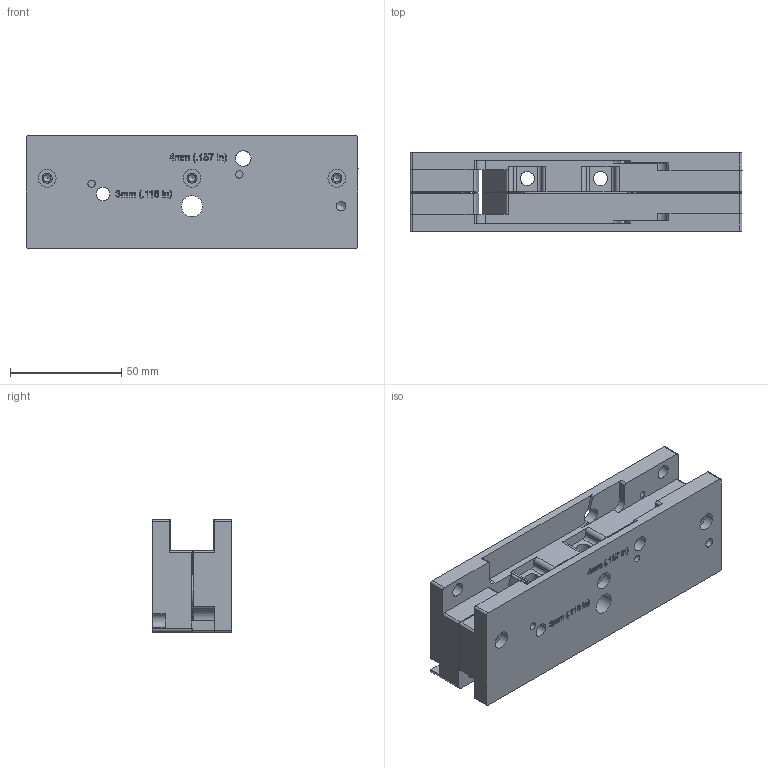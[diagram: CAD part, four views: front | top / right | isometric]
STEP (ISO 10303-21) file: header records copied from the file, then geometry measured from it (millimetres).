
FILE_DESCRIPTION(/* description */ ('','CAx-IF Rec.Pracs.---Representation and Presentation of Product Manufacturing Information (PMI)---4.0---2014-10-13'),/* implementation_level */ '2;1');
FILE_NAME(/* name */ 'G80 Fixture_Rev.C (Anodized).step',/* time_stamp */ '2024-12-09T23:16:25-06:00',/* author */ (''),/* organization */ (''),/* preprocessor_version */ 'ST-DEVELOPER v20',/* originating_system */ 'Autodesk Translation Framework v13.20.0.188',/* authorisation */ '');
FILE_SCHEMA (('AP242_MANAGED_MODEL_BASED_3D_ENGINEERING_MIM_LF { 1 0 10303 442 1 1 4 }'));
Length unit declared in the file: inch
Products named in the file (2): G80 Fixture_Rev.C (Anodized); Component7
Assembly tree (1 placements, depth 2):
  G80 Fixture_Rev.C (Anodized)
    Component7
Bounding box: 149.22 x 35.4 x 50.8 mm (x, y, z)
Volume: 191594.1 mm3; surface area: 51280 mm2
Topology: 2 solids, 2 shells, 940 faces, 2603 edges, 1729 vertices
Faces by surface type: bspline 426, plane 422, cylinder 87, cone 5
Full cylindrical faces by diameter (mm): 2.997 x4, 3.332 x7, 4.234 x2, 4.5 x3, 6.045 x2, 6.401 x6, 7.046 x2, 8 x3, 9.525 x2
Entity records: 33889 total; most frequent: CARTESIAN_POINT 12512, ORIENTED_EDGE 5196, DIRECTION 2978, EDGE_CURVE 2598, VERTEX_POINT 1729, LINE 1548, VECTOR 1548, EDGE_LOOP 1037
